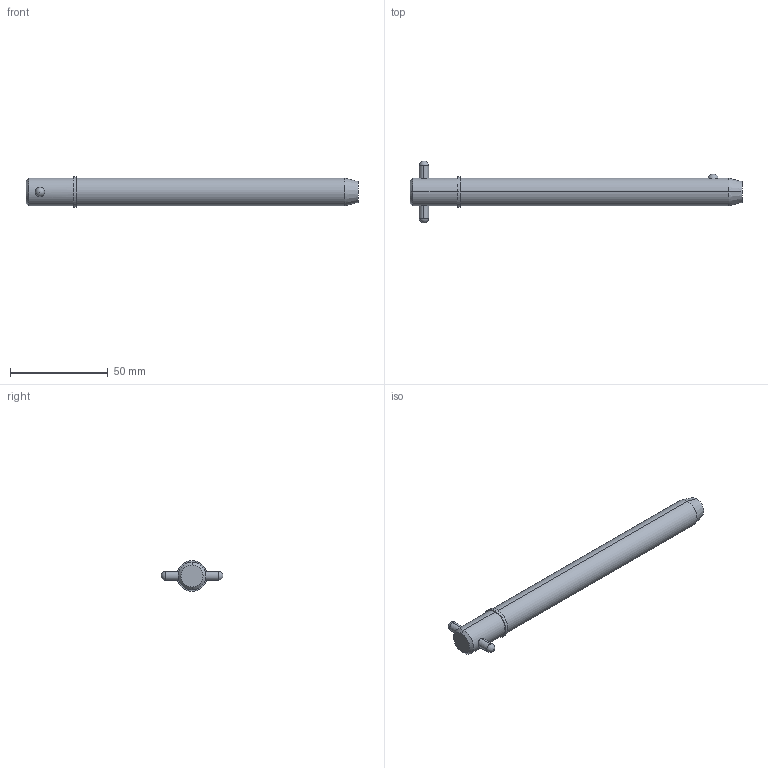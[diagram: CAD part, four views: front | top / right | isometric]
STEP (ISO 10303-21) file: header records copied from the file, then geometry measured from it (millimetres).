
FILE_DESCRIPTION (( 'STEP AP203' ), '1' );
FILE_NAME ('33018.W5650.step', '2024-11-19T17:17:24', ( '' ), ( '' ), 'SwSTEP 2.0', 'SolidWorks 2019', '' );
FILE_SCHEMA (( 'CONFIG_CONTROL_DESIGN' ));
Length unit declared in the file: millimetre
Products named in the file (3): 33018.W5650; Part1_33018.W5650; Part2_33018.W5650
Assembly tree (2 placements, depth 2):
  33018.W5650
    Part1_33018.W5650
    Part2_33018.W5650
Bounding box: 170.15 x 31.75 x 15.72 mm (x, y, z)
Volume: 27364.6 mm3; surface area: 8557 mm2
Topology: 2 solids, 2 shells, 22 faces, 47 edges, 30 vertices
Faces by surface type: cylinder 10, sphere 4, cone 4, plane 4
Entity records: 1033 total; most frequent: CARTESIAN_POINT 276, DIRECTION 110, ORIENTED_EDGE 82, AXIS2_PLACEMENT_3D 48, EDGE_CURVE 41, EDGE_LOOP 27, VERTEX_POINT 26, PERSON_AND_ORGANIZATION 26
